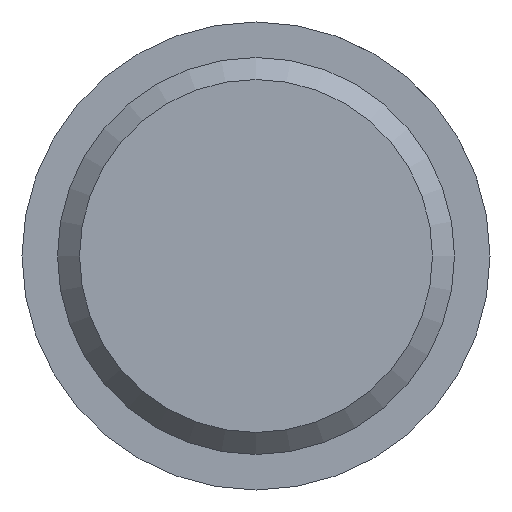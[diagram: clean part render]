
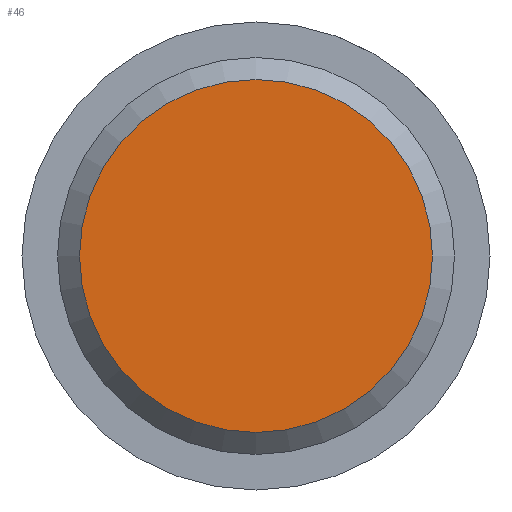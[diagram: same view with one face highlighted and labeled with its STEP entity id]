
A CAD part, front view. The second image highlights one B-rep face of the part: STEP entity #46.
In plain terms, the highlighted planar face has unit normal (0, -1, 0).
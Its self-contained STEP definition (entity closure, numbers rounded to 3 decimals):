
#46 = ADVANCED_FACE( '', ( #94 ), #95, .F. );
#94 = FACE_OUTER_BOUND( '', #171, .T. );
#95 = PLANE( '', #172 );
#171 = EDGE_LOOP( '', ( #223 ) );
#172 = AXIS2_PLACEMENT_3D( '', #224, #225, #226 );
#223 = ORIENTED_EDGE( '', *, *, #251, .T. );
#224 = CARTESIAN_POINT( '', ( 9.316, 0., 0. ) );
#225 = DIRECTION( '', ( 0., 1., 0. ) );
#226 = DIRECTION( '', ( 0., 0., 1. ) );
#251 = EDGE_CURVE( '', #277, #277, #278, .T. );
#277 = VERTEX_POINT( '', #311 );
#278 = CIRCLE( '', #312, 9.316 );
#311 = CARTESIAN_POINT( '', ( 0., 0., -9.316 ) );
#312 = AXIS2_PLACEMENT_3D( '', #379, #380, #381 );
#379 = CARTESIAN_POINT( '', ( 0., 0., 0. ) );
#380 = DIRECTION( '', ( 0., -1., 0. ) );
#381 = DIRECTION( '', ( 0., 0., -1. ) );
